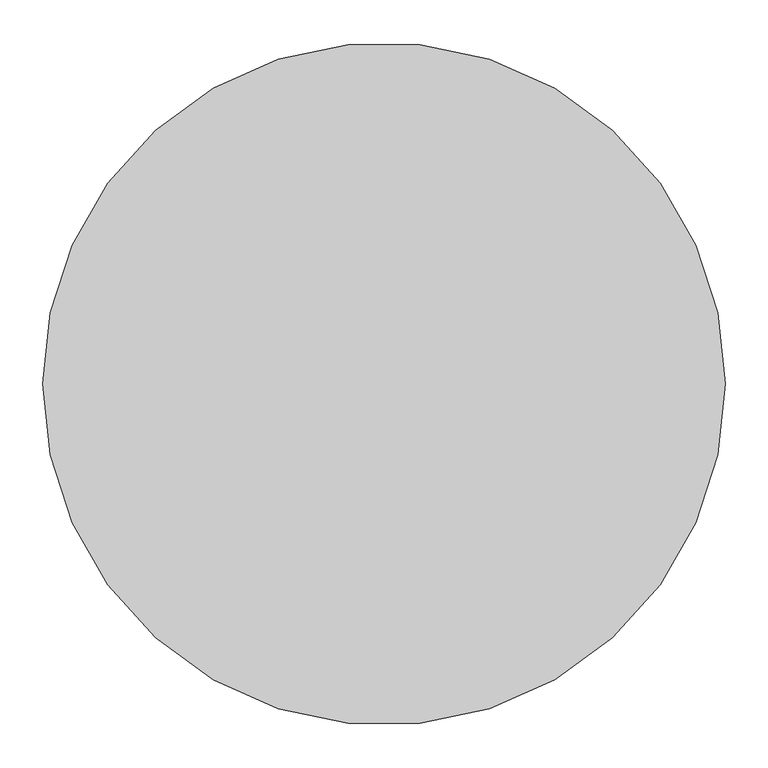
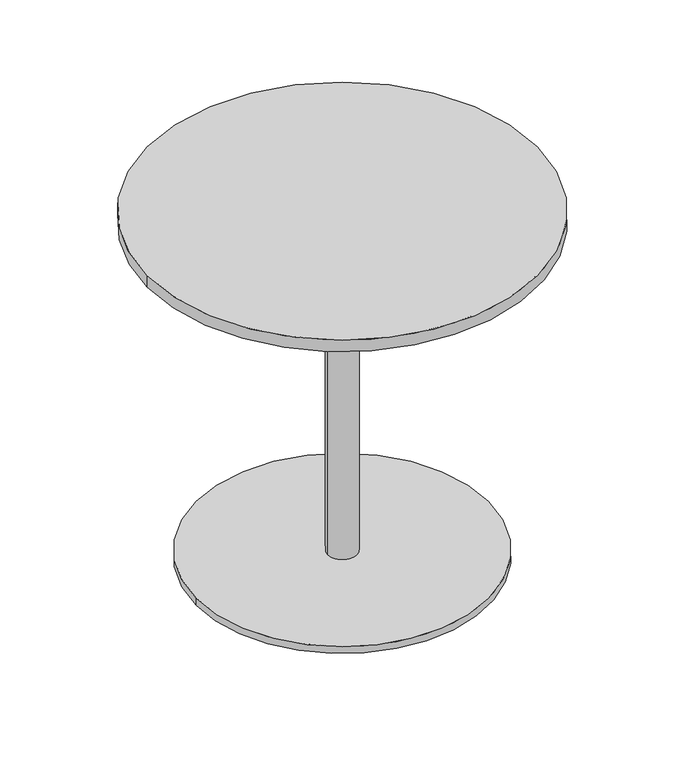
"""IFC4 building model written with IfcOpenShell, lengths in millimetres: furniture geometry, OPP-SH-R800 - Standard Height - 800 Dia : OPP-SH-R800 - Standard Height - 800 Dia."""

import ifcopenshell
import ifcopenshell.guid

model = None  # the IFC model being written
_history = None  # IfcOwnerHistory: only IFC2X3 demands one
_inside = {}  # id of a spatial element -> (the spatial element, [elements in it])
_under = {}  # id of a project, library or spatial element -> (it, [spatial elements below it])
_declared = {}  # id of a project -> (the project, [libraries it declares])
_typed = {}  # id of a type object -> (the type object, [elements of that type])
_made_of = {}  # id of a material, layer set ... -> (it, [elements and type objects made of it])


def new_model(schema):
    """Start an empty IFC model of exactly this schema.

    Asked for "IFC4X3", IfcOpenShell would pick the latest addendum, in which some entities
    have other attributes; the version numbers below select the first issue.
    IFC2X3 requires an IfcOwnerHistory on every rooted entity: one is made here for all.
    """
    global model, _history
    if schema == "IFC4X3":
        model = ifcopenshell.file(schema_version=(4, 3, 0, 0))
    else:
        model = ifcopenshell.file(schema=schema)
    _inside.clear()
    _under.clear()
    _declared.clear()
    _typed.clear()
    _made_of.clear()
    _history = None
    if model.schema == "IFC2X3":
        org = make("IfcOrganization", Name="unknown")
        user = make(
            "IfcPersonAndOrganization",
            ThePerson=make("IfcPerson", FamilyName="unknown"),
            TheOrganization=org,
        )
        app = make(
            "IfcApplication",
            ApplicationDeveloper=org,
            Version="unknown",
            ApplicationFullName="unknown",
            ApplicationIdentifier="unknown",
        )
        _history = make(
            "IfcOwnerHistory",
            OwningUser=user,
            OwningApplication=app,
            ChangeAction="ADDED",
            CreationDate=0,
        )
    return model


def make(cls, **values):
    """One entity of the class cls with the attributes given. An attribute that is None is left unset."""
    return model.create_entity(
        cls, **{name: value for name, value in values.items() if value is not None}
    )


def rooted(cls, **values):
    """An entity with a GlobalId (a new one), such as an element, a storey or a relation."""
    return make(cls, GlobalId=ifcopenshell.guid.new(), OwnerHistory=_history, **values)


def si_unit(unit_type, name, prefix=None):
    """IfcSIUnit, for example si_unit("LENGTHUNIT", "METRE", prefix="MILLI")."""
    return make("IfcSIUnit", UnitType=unit_type, Prefix=prefix, Name=name)


def assignment(units):
    """IfcUnitAssignment: the units of a project."""
    return None if units is None else make("IfcUnitAssignment", Units=units)


def point(xyz):
    """IfcCartesianPoint."""
    return None if xyz is None else make("IfcCartesianPoint", Coordinates=xyz)


def direction(xyz):
    """IfcDirection."""
    return None if xyz is None else make("IfcDirection", DirectionRatios=xyz)


def frame(location, z_axis=None, x_axis=None):
    """IfcAxis2Placement3D, a coordinate frame: its origin and axes. An axis left out is left unset."""
    return make(
        "IfcAxis2Placement3D",
        Location=point(location),
        Axis=direction(z_axis),
        RefDirection=direction(x_axis),
    )


def frame_2d(location, x_axis=None):
    """IfcAxis2Placement2D, a coordinate frame in the plane: its origin and x axis."""
    return make(
        "IfcAxis2Placement2D", Location=point(location), RefDirection=direction(x_axis)
    )


def origin():
    """The frame at (0, 0, 0) with its axes left unset."""
    return frame((0.0, 0.0, 0.0))


def origin_with_axes():
    """The frame at (0, 0, 0) with the z axis (0, 0, 1) and the x axis (1, 0, 0) written out."""
    return frame((0.0, 0.0, 0.0), z_axis=(0.0, 0.0, 1.0), x_axis=(1.0, 0.0, 0.0))


def origin_2d():
    """The frame at (0, 0) in the plane with its x axis left unset."""
    return frame_2d((0.0, 0.0))


def place(relative_to, where):
    """IfcLocalPlacement: puts the frame where relative to a parent placement (None: the world)."""
    return make(
        "IfcLocalPlacement", PlacementRelTo=relative_to, RelativePlacement=where
    )


def context(
    kind, dimensions, precision=None, world=None, true_north=None, identifier=None
):
    """IfcGeometricRepresentationContext, for example the 3D "Model" context."""
    return make(
        "IfcGeometricRepresentationContext",
        ContextIdentifier=identifier,
        ContextType=kind,
        CoordinateSpaceDimension=dimensions,
        Precision=precision,
        WorldCoordinateSystem=world,
        TrueNorth=true_north,
    )


def project(units=None, contexts=None):
    """IfcProject with its units and contexts."""
    return rooted(
        "IfcProject",
        Name="project",
        RepresentationContexts=contexts,
        UnitsInContext=assignment(units),
    )


def spatial(cls, under=None, at=None, **own):
    """A site, building, storey or space (cls), placed at a placement, below another one or the project."""
    s = rooted(cls, ObjectPlacement=at, **own)
    if under is not None:
        _under.setdefault(under.id(), (under, []))[1].append(s)
    return s


def circle_curve(where, radius):
    """IfcCircle in the frame where."""
    return make("IfcCircle", Position=where, Radius=radius)


def trimmed(basis, trim1, trim2, sense, master):
    """IfcTrimmedCurve: the piece of a basis curve between two trims."""
    return make(
        "IfcTrimmedCurve",
        BasisCurve=basis,
        Trim1=trim1,
        Trim2=trim2,
        SenseAgreement=sense,
        MasterRepresentation=master,
    )


def segment(curve, same_sense, transition):
    """IfcCompositeCurveSegment."""
    return make(
        "IfcCompositeCurveSegment",
        Transition=transition,
        SameSense=same_sense,
        ParentCurve=curve,
    )


def composite_curve(segments, self_intersect=None):
    """IfcCompositeCurve: segments joined end to end."""
    return make("IfcCompositeCurve", Segments=segments, SelfIntersect=self_intersect)


def outline(outer, holes=None, kind="AREA"):
    """IfcArbitraryClosedProfileDef: a profile drawn as a closed curve; with holes, ...WithVoids."""
    if holes is None:
        return make("IfcArbitraryClosedProfileDef", ProfileType=kind, OuterCurve=outer)
    return make(
        "IfcArbitraryProfileDefWithVoids",
        ProfileType=kind,
        OuterCurve=outer,
        InnerCurves=holes,
    )


def extrude(swept, where, along, depth):
    """IfcExtrudedAreaSolid: the profile swept, set in the frame where, extruded along a direction by depth."""
    return make(
        "IfcExtrudedAreaSolid",
        SweptArea=swept,
        Position=where,
        ExtrudedDirection=direction(along),
        Depth=depth,
    )


def shape(context_of_items, identifier, shape_type, items):
    """IfcShapeRepresentation: the items that make up one representation, for example the "Body"."""
    return make(
        "IfcShapeRepresentation",
        ContextOfItems=context_of_items,
        RepresentationIdentifier=identifier,
        RepresentationType=shape_type,
        Items=items,
    )


def source(mapping_origin, context_of_items, identifier, shape_type, items):
    """IfcRepresentationMap: a shape defined once, which mapped items show again and again."""
    return make(
        "IfcRepresentationMap",
        MappingOrigin=mapping_origin,
        MappedRepresentation=shape(context_of_items, identifier, shape_type, items),
    )


def transform(
    local_origin,
    x_axis=None,
    y_axis=None,
    z_axis=None,
    scale=None,
    scale2=None,
    scale3=None,
    uniform=True,
):
    """IfcCartesianTransformationOperator3D, or its non-uniform kind. x_axis, y_axis, z_axis: its Axis1, 2, 3."""
    if uniform:
        return make(
            "IfcCartesianTransformationOperator3D",
            Axis1=direction(x_axis),
            Axis2=direction(y_axis),
            LocalOrigin=point(local_origin),
            Scale=scale,
            Axis3=direction(z_axis),
        )
    return make(
        "IfcCartesianTransformationOperator3DnonUniform",
        Axis1=direction(x_axis),
        Axis2=direction(y_axis),
        LocalOrigin=point(local_origin),
        Scale=scale,
        Axis3=direction(z_axis),
        Scale2=scale2,
        Scale3=scale3,
    )


def mapped(mapping_source, mapping_target):
    """IfcMappedItem: shows the shape of a source again, moved by a transform."""
    return make(
        "IfcMappedItem", MappingSource=mapping_source, MappingTarget=mapping_target
    )


def made_of(thing, what):
    """Note that an element or type object is made of a material, layer set ...; save() writes the relation."""
    if what is not None:
        _made_of.setdefault(what.id(), (what, []))[1].append(thing)
    return thing


def element(
    cls,
    number,
    at=None,
    inside=None,
    cuts=None,
    type_object=None,
    material=None,
    context=None,
    identifier="Body",
    shape_type=None,
    held_by="IfcProductDefinitionShape",
    body=None,
    shapes=None,
    **own,
):
    """One element of the class cls, such as IfcWall. Its Tag is "e" and its number.

    at: its placement. inside: the storey or other place that contains it. cuts: it is an
    opening in that element (IfcRelVoidsElement). A single representation is given by context,
    identifier, shape_type and body (its items); several are given by shapes. held_by: the class
    of the entity that holds the representations. save() writes the other relations.
    """
    e = rooted(cls, Tag="e%d" % number, ObjectPlacement=at, **own)
    if body is not None:
        shapes = [shape(context, identifier, shape_type, body)]
    if shapes is not None:
        e.Representation = make(held_by, Representations=shapes)
    if inside is not None:
        _inside.setdefault(inside.id(), (inside, []))[1].append(e)
    if cuts is not None:
        rooted(
            "IfcRelVoidsElement", RelatingBuildingElement=cuts, RelatedOpeningElement=e
        )
    if type_object is not None:
        _typed.setdefault(type_object.id(), (type_object, []))[1].append(e)
    return made_of(e, material)


def aggregate(whole, parts):
    """IfcRelAggregates: a whole, such as a stair, and the parts it consists of."""
    return rooted("IfcRelAggregates", RelatingObject=whole, RelatedObjects=parts)


def save(model, path):
    """Write the relations noted so far, then the file.

    IfcRelAggregates (storeys below a building ...), IfcRelContainedInSpatialStructure (elements
    in a storey), IfcRelDefinesByType, IfcRelAssociatesMaterial and IfcRelDeclares: one each for
    every whole, place, type object, material and project.
    """
    for whole, parts in _under.values():
        aggregate(whole, parts)
    for where, things in _inside.values():
        rooted(
            "IfcRelContainedInSpatialStructure",
            RelatedElements=things,
            RelatingStructure=where,
        )
    for kind, things in _typed.values():
        rooted("IfcRelDefinesByType", RelatedObjects=things, RelatingType=kind)
    for what, things in _made_of.values():
        rooted("IfcRelAssociatesMaterial", RelatedObjects=things, RelatingMaterial=what)
    for by, libraries in _declared.values():
        rooted("IfcRelDeclares", RelatingContext=by, RelatedDefinitions=libraries)
    model.write(path)


def furniture_31741fdc(model_context):
    return source(origin(), model_context, "Body", "SweptSolid", [
        extrude(outline(composite_curve([segment(trimmed(circle_curve(origin_2d(), 30.0), [point((-30.0, 0.0))], [point((30.0, 0.0))], False, "CARTESIAN"), True, "CONTINUOUS"), segment(trimmed(circle_curve(origin_2d(), 30.0), [point((30.0, 0.0))], [point((-30.0, 0.0))], False, "CARTESIAN"), True, "CONTINUOUS")], self_intersect=False)), frame((0.0, 0.0, 15.0), z_axis=(0.0, 0.0, 1.0), x_axis=(1.0, 0.0, 0.0)), (0.0, 0.0, 1.0), 710.0),
        extrude(outline(composite_curve([segment(trimmed(circle_curve(origin_2d(), 300.0), [point((-300.0, 0.0))], [point((300.0, 0.0))], False, "CARTESIAN"), True, "CONTINUOUS"), segment(trimmed(circle_curve(origin_2d(), 300.0), [point((300.0, 0.0))], [point((-300.0, 0.0))], False, "CARTESIAN"), True, "CONTINUOUS")], self_intersect=False)), origin_with_axes(), (0.0, 0.0, 1.0), 15.0),
        extrude(outline(composite_curve([segment(trimmed(circle_curve(origin_2d(), 400.0), [point((-400.0, 0.0))], [point((400.0, 0.0))], False, "CARTESIAN"), True, "CONTINUOUS"), segment(trimmed(circle_curve(origin_2d(), 400.0), [point((400.0, 0.0))], [point((-400.0, 0.0))], False, "CARTESIAN"), True, "CONTINUOUS")], self_intersect=False)), frame((0.0, 0.0, 725.0), z_axis=(0.0, 0.0, 1.0), x_axis=(1.0, 0.0, 0.0)), (0.0, 0.0, 1.0), 25.0),
    ])


if __name__ == "__main__":
    model = new_model("IFC4")
    model_context = context("Model", 3, world=origin())
    ifc_project = project(units=[si_unit("LENGTHUNIT", "METRE", prefix="MILLI")], contexts=[model_context])
    site = spatial("IfcSite", under=ifc_project)
    building = spatial("IfcBuilding", under=site)
    placement = place(None, origin())
    furniture_shape = furniture_31741fdc(model_context)
    element("IfcFurniture", 1, ObjectType="OPP-SH-R800 - Standard Height - 800 Dia : OPP-SH-R800 - Standard Height - 800 Dia", at=placement, inside=building, context=model_context, shape_type="MappedRepresentation", body=[
        mapped(furniture_shape, transform((0.0, 0.0, 0.0), x_axis=(1.0, 0.0, 0.0), y_axis=(0.0, 1.0, 0.0), z_axis=(0.0, 0.0, 1.0))),
    ])
    save(model, "model.ifc")
